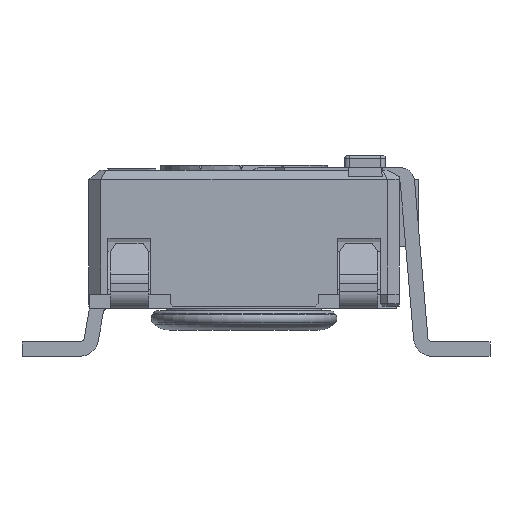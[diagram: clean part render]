
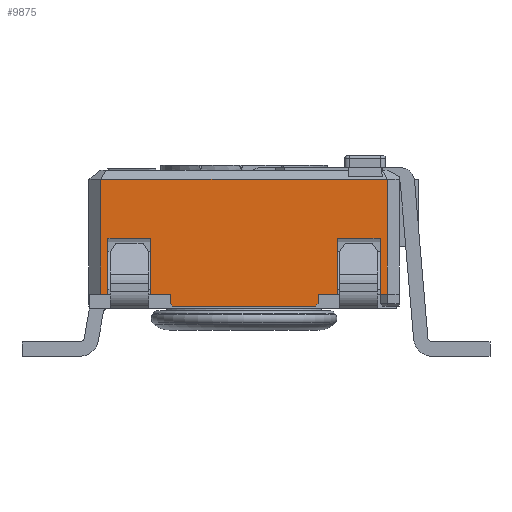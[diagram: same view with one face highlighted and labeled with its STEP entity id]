
A CAD part, left-side view. The second image highlights one B-rep face of the part: STEP entity #9875.
In plain terms, the highlighted planar face has unit normal (-1, 0, 0).
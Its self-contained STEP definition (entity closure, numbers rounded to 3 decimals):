
#877=FACE_OUTER_BOUND('',#1413,.T.);
#1413=EDGE_LOOP('',(#8428,#8429,#8430,#8431,#8432,#8433,#8434,#8435,#8436,
#8437,#8438,#8439,#8440,#8441,#8442,#8443,#8444,#8445));
#2002=LINE('',#14855,#3127);
#2121=LINE('',#15118,#3246);
#2127=LINE('',#15131,#3252);
#2133=LINE('',#15142,#3258);
#2139=LINE('',#15153,#3264);
#2144=LINE('',#15163,#3269);
#2147=LINE('',#15169,#3272);
#2179=LINE('',#15231,#3304);
#2203=LINE('',#15286,#3328);
#2215=LINE('',#15306,#3340);
#2217=LINE('',#15311,#3342);
#2226=LINE('',#15330,#3351);
#2228=LINE('',#15333,#3353);
#2248=LINE('',#15374,#3373);
#2426=LINE('',#15820,#3551);
#2439=LINE('',#15844,#3564);
#2440=LINE('',#15846,#3565);
#2441=LINE('',#15848,#3566);
#3127=VECTOR('',#11976,10.);
#3246=VECTOR('',#12161,10.);
#3252=VECTOR('',#12169,10.);
#3258=VECTOR('',#12175,10.);
#3264=VECTOR('',#12183,10.);
#3269=VECTOR('',#12190,10.);
#3272=VECTOR('',#12195,10.);
#3304=VECTOR('',#12237,10.);
#3328=VECTOR('',#12289,10.);
#3340=VECTOR('',#12309,10.);
#3342=VECTOR('',#12313,10.);
#3351=VECTOR('',#12334,10.);
#3353=VECTOR('',#12338,10.);
#3373=VECTOR('',#12372,10.);
#3551=VECTOR('',#12800,10.);
#3564=VECTOR('',#12821,10.);
#3565=VECTOR('',#12824,10.);
#3566=VECTOR('',#12827,10.);
#4209=VERTEX_POINT('',#14852);
#4210=VERTEX_POINT('',#14854);
#4320=VERTEX_POINT('',#15115);
#4321=VERTEX_POINT('',#15117);
#4325=VERTEX_POINT('',#15127);
#4327=VERTEX_POINT('',#15130);
#4332=VERTEX_POINT('',#15140);
#4335=VERTEX_POINT('',#15150);
#4339=VERTEX_POINT('',#15160);
#4342=VERTEX_POINT('',#15167);
#4365=VERTEX_POINT('',#15218);
#4367=VERTEX_POINT('',#15230);
#4384=VERTEX_POINT('',#15282);
#4389=VERTEX_POINT('',#15308);
#4394=VERTEX_POINT('',#15329);
#4529=VERTEX_POINT('',#15817);
#4530=VERTEX_POINT('',#15819);
#4537=VERTEX_POINT('',#15842);
#5322=EDGE_CURVE('',#4210,#4209,#2002,.T.);
#5457=EDGE_CURVE('',#4321,#4320,#2121,.T.);
#5463=EDGE_CURVE('',#4327,#4325,#2127,.T.);
#5469=EDGE_CURVE('',#4320,#4332,#2133,.T.);
#5475=EDGE_CURVE('',#4325,#4335,#2139,.T.);
#5480=EDGE_CURVE('',#4335,#4339,#2144,.T.);
#5483=EDGE_CURVE('',#4339,#4342,#2147,.T.);
#5515=EDGE_CURVE('',#4367,#4321,#2179,.T.);
#5545=EDGE_CURVE('',#4209,#4367,#2203,.T.);
#5557=EDGE_CURVE('',#4210,#4384,#2215,.T.);
#5559=EDGE_CURVE('',#4332,#4389,#2217,.T.);
#5568=EDGE_CURVE('',#4394,#4365,#2226,.T.);
#5570=EDGE_CURVE('',#4384,#4365,#2228,.T.);
#5591=EDGE_CURVE('',#4342,#4394,#2248,.T.);
#5810=EDGE_CURVE('',#4529,#4530,#2426,.T.);
#5823=EDGE_CURVE('',#4537,#4389,#2439,.T.);
#5824=EDGE_CURVE('',#4537,#4530,#2440,.T.);
#5825=EDGE_CURVE('',#4529,#4327,#2441,.T.);
#8428=ORIENTED_EDGE('',*,*,#5823,.F.);
#8429=ORIENTED_EDGE('',*,*,#5824,.T.);
#8430=ORIENTED_EDGE('',*,*,#5810,.F.);
#8431=ORIENTED_EDGE('',*,*,#5825,.T.);
#8432=ORIENTED_EDGE('',*,*,#5463,.T.);
#8433=ORIENTED_EDGE('',*,*,#5475,.T.);
#8434=ORIENTED_EDGE('',*,*,#5480,.T.);
#8435=ORIENTED_EDGE('',*,*,#5483,.T.);
#8436=ORIENTED_EDGE('',*,*,#5591,.T.);
#8437=ORIENTED_EDGE('',*,*,#5568,.T.);
#8438=ORIENTED_EDGE('',*,*,#5570,.F.);
#8439=ORIENTED_EDGE('',*,*,#5557,.F.);
#8440=ORIENTED_EDGE('',*,*,#5322,.T.);
#8441=ORIENTED_EDGE('',*,*,#5545,.T.);
#8442=ORIENTED_EDGE('',*,*,#5515,.T.);
#8443=ORIENTED_EDGE('',*,*,#5457,.T.);
#8444=ORIENTED_EDGE('',*,*,#5469,.T.);
#8445=ORIENTED_EDGE('',*,*,#5559,.T.);
#9206=PLANE('',#10610);
#9875=ADVANCED_FACE('',(#877),#9206,.T.);
#10610=AXIS2_PLACEMENT_3D('',#16029,#13029,#13030);
#11976=DIRECTION('',(0.,-1.,0.));
#12161=DIRECTION('',(0.,0.,-1.));
#12169=DIRECTION('',(0.,-1.,0.));
#12175=DIRECTION('',(0.,-1.,0.));
#12183=DIRECTION('',(0.,0.,1.));
#12190=DIRECTION('',(0.,-1.,0.));
#12195=DIRECTION('',(0.,0.,-1.));
#12237=DIRECTION('',(0.,-1.,0.));
#12289=DIRECTION('',(0.,0.,1.));
#12309=DIRECTION('',(0.,0.,1.));
#12313=DIRECTION('',(0.,0.,-1.));
#12334=DIRECTION('',(0.,0.,1.));
#12338=DIRECTION('',(0.,-1.,0.));
#12372=DIRECTION('',(0.,-1.,0.));
#12800=DIRECTION('',(0.,0.707,-0.707));
#12821=DIRECTION('',(0.,0.707,0.707));
#12824=DIRECTION('',(0.,-1.,0.));
#12827=DIRECTION('',(0.,0.,1.));
#13029=DIRECTION('center_axis',(-1.,0.,0.));
#13030=DIRECTION('ref_axis',(0.,0.,1.));
#14852=CARTESIAN_POINT('',(-14.26,-8.882,0.25));
#14854=CARTESIAN_POINT('',(-14.26,-8.732,0.25));
#14855=CARTESIAN_POINT('',(-14.26,-13.244,0.25));
#15115=CARTESIAN_POINT('',(-14.26,-9.782,0.25));
#15117=CARTESIAN_POINT('',(-14.26,-9.782,1.425));
#15118=CARTESIAN_POINT('',(-14.26,-9.782,0.387));
#15127=CARTESIAN_POINT('',(-14.26,-13.682,0.25));
#15130=CARTESIAN_POINT('',(-14.26,-13.282,0.25));
#15131=CARTESIAN_POINT('',(-14.26,-13.244,0.25));
#15140=CARTESIAN_POINT('',(-14.26,-10.182,0.25));
#15142=CARTESIAN_POINT('',(-14.26,-13.244,0.25));
#15150=CARTESIAN_POINT('',(-14.26,-13.682,1.425));
#15153=CARTESIAN_POINT('',(-14.26,-13.682,0.387));
#15160=CARTESIAN_POINT('',(-14.26,-14.582,1.425));
#15163=CARTESIAN_POINT('',(-14.26,-14.657,1.425));
#15167=CARTESIAN_POINT('',(-14.26,-14.582,0.25));
#15169=CARTESIAN_POINT('',(-14.26,-14.582,0.387));
#15218=CARTESIAN_POINT('',(-14.26,-14.732,2.655));
#15230=CARTESIAN_POINT('',(-14.26,-8.882,1.425));
#15231=CARTESIAN_POINT('',(-14.26,-11.807,1.425));
#15282=CARTESIAN_POINT('',(-14.26,-8.732,2.655));
#15286=CARTESIAN_POINT('',(-14.26,-8.882,0.387));
#15306=CARTESIAN_POINT('',(-14.26,-8.732,0.));
#15308=CARTESIAN_POINT('',(-14.26,-10.182,0.05));
#15311=CARTESIAN_POINT('',(-14.26,-10.182,0.));
#15329=CARTESIAN_POINT('',(-14.26,-14.732,0.25));
#15330=CARTESIAN_POINT('',(-14.26,-14.732,0.));
#15333=CARTESIAN_POINT('',(-14.26,-13.232,2.655));
#15374=CARTESIAN_POINT('',(-14.26,-13.244,0.25));
#15817=CARTESIAN_POINT('',(-14.26,-13.282,0.05));
#15819=CARTESIAN_POINT('',(-14.26,-13.232,0.));
#15820=CARTESIAN_POINT('',(-14.26,-13.619,0.388));
#15842=CARTESIAN_POINT('',(-14.26,-10.232,0.));
#15844=CARTESIAN_POINT('',(-14.26,-11.344,-1.113));
#15846=CARTESIAN_POINT('',(-14.26,-8.732,0.));
#15848=CARTESIAN_POINT('',(-14.26,-13.282,0.));
#16029=CARTESIAN_POINT('Origin',(-14.26,-14.732,0.));
